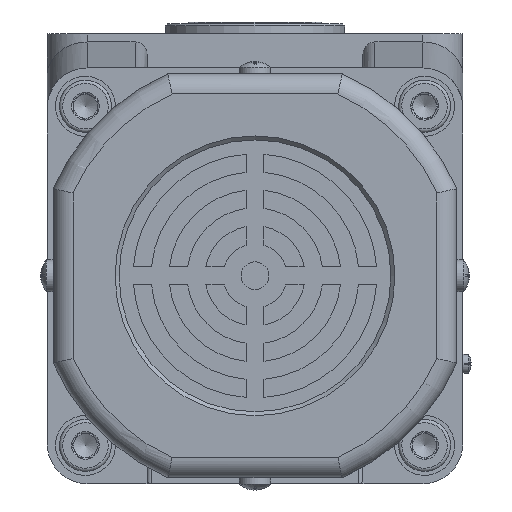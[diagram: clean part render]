
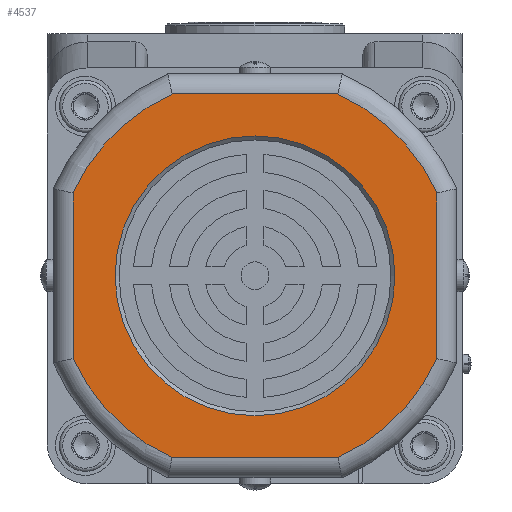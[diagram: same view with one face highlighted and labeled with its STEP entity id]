
A CAD part, front view. The second image highlights one B-rep face of the part: STEP entity #4537.
In plain terms, the highlighted planar face has unit normal (0, -1, 0).
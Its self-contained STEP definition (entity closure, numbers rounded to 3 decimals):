
#486=FACE_BOUND('',#6377,.T.);
#487=FACE_BOUND('',#6378,.T.);
#1961=PLANE('',#15564);
#2525=LINE('',#21936,#3536);
#2526=LINE('',#21941,#3537);
#2527=LINE('',#21945,#3538);
#2528=LINE('',#21949,#3539);
#3536=VECTOR('',#17415,1.);
#3537=VECTOR('',#17418,1.);
#3538=VECTOR('',#17421,1.);
#3539=VECTOR('',#17424,1.);
#4537=ADVANCED_FACE('',(#486,#487),#1961,.F.);
#6377=EDGE_LOOP('',(#7702));
#6378=EDGE_LOOP('',(#7703,#7704,#7705,#7706,#7707,#7708,#7709,#7710));
#7702=ORIENTED_EDGE('',*,*,#12729,.T.);
#7703=ORIENTED_EDGE('',*,*,#12730,.T.);
#7704=ORIENTED_EDGE('',*,*,#12731,.T.);
#7705=ORIENTED_EDGE('',*,*,#12732,.T.);
#7706=ORIENTED_EDGE('',*,*,#12733,.T.);
#7707=ORIENTED_EDGE('',*,*,#12734,.T.);
#7708=ORIENTED_EDGE('',*,*,#12735,.T.);
#7709=ORIENTED_EDGE('',*,*,#12736,.T.);
#7710=ORIENTED_EDGE('',*,*,#12737,.T.);
#11398=VERTEX_POINT('',#21935);
#11399=VERTEX_POINT('',#21937);
#11400=VERTEX_POINT('',#21938);
#11401=VERTEX_POINT('',#21940);
#11402=VERTEX_POINT('',#21942);
#11403=VERTEX_POINT('',#21944);
#11404=VERTEX_POINT('',#21946);
#11405=VERTEX_POINT('',#21948);
#11406=VERTEX_POINT('',#21950);
#12729=EDGE_CURVE('',#11398,#11398,#14558,.T.);
#12730=EDGE_CURVE('',#11399,#11400,#2525,.T.);
#12731=EDGE_CURVE('',#11400,#11401,#14559,.T.);
#12732=EDGE_CURVE('',#11401,#11402,#2526,.T.);
#12733=EDGE_CURVE('',#11402,#11403,#14560,.T.);
#12734=EDGE_CURVE('',#11403,#11404,#2527,.T.);
#12735=EDGE_CURVE('',#11404,#11405,#14561,.T.);
#12736=EDGE_CURVE('',#11405,#11406,#2528,.T.);
#12737=EDGE_CURVE('',#11406,#11399,#14562,.T.);
#14558=CIRCLE('',#15559,35.);
#14559=CIRCLE('',#15560,50.);
#14560=CIRCLE('',#15561,50.);
#14561=CIRCLE('',#15562,50.);
#14562=CIRCLE('',#15563,50.);
#15559=AXIS2_PLACEMENT_3D('',#21934,#17413,#17414);
#15560=AXIS2_PLACEMENT_3D('',#21939,#17416,#17417);
#15561=AXIS2_PLACEMENT_3D('',#21943,#17419,#17420);
#15562=AXIS2_PLACEMENT_3D('',#21947,#17422,#17423);
#15563=AXIS2_PLACEMENT_3D('',#21951,#17425,#17426);
#15564=AXIS2_PLACEMENT_3D('',#21952,#17427,#17428);
#17413=DIRECTION('',(0.,1.,0.));
#17414=DIRECTION('',(-1.,0.,0.));
#17415=DIRECTION('',(0.,0.,1.));
#17416=DIRECTION('',(0.,-1.,0.));
#17417=DIRECTION('',(-1.,0.,0.));
#17418=DIRECTION('',(-1.,0.,0.));
#17419=DIRECTION('',(0.,-1.,0.));
#17420=DIRECTION('',(-1.,0.,0.));
#17421=DIRECTION('',(0.,0.,-1.));
#17422=DIRECTION('',(0.,-1.,0.));
#17423=DIRECTION('',(-1.,0.,0.));
#17424=DIRECTION('',(1.,0.,0.));
#17425=DIRECTION('',(0.,-1.,0.));
#17426=DIRECTION('',(-1.,0.,0.));
#17427=DIRECTION('',(0.,1.,0.));
#17428=DIRECTION('',(-1.,0.,0.));
#21934=CARTESIAN_POINT('',(0.,-352.,-60.5));
#21935=CARTESIAN_POINT('',(-35.,-352.,-60.5));
#21936=CARTESIAN_POINT('',(45.5,-352.,-38.711));
#21937=CARTESIAN_POINT('',(45.5,-352.,-81.23));
#21938=CARTESIAN_POINT('',(45.5,-352.,-39.77));
#21939=CARTESIAN_POINT('',(0.,-352.,-60.5));
#21940=CARTESIAN_POINT('',(20.73,-352.,-15.));
#21941=CARTESIAN_POINT('',(-21.789,-352.,-15.));
#21942=CARTESIAN_POINT('',(-20.73,-352.,-15.));
#21943=CARTESIAN_POINT('',(0.,-352.,-60.5));
#21944=CARTESIAN_POINT('',(-45.5,-352.,-39.77));
#21945=CARTESIAN_POINT('',(-45.5,-352.,-82.289));
#21946=CARTESIAN_POINT('',(-45.5,-352.,-81.23));
#21947=CARTESIAN_POINT('',(0.,-352.,-60.5));
#21948=CARTESIAN_POINT('',(-20.73,-352.,-106.));
#21949=CARTESIAN_POINT('',(21.789,-352.,-106.));
#21950=CARTESIAN_POINT('',(20.73,-352.,-106.));
#21951=CARTESIAN_POINT('',(0.,-352.,-60.5));
#21952=CARTESIAN_POINT('',(0.,-352.,-60.5));
